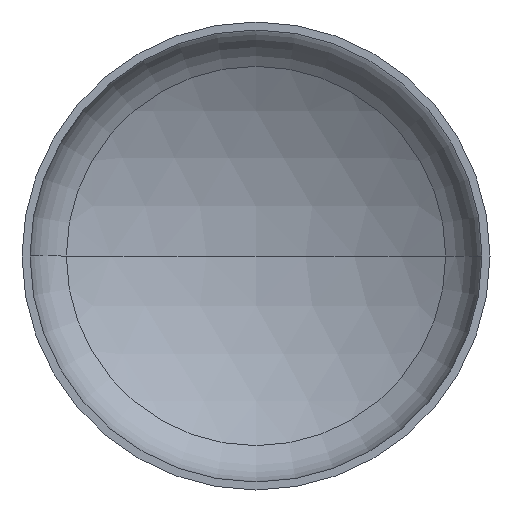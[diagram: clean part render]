
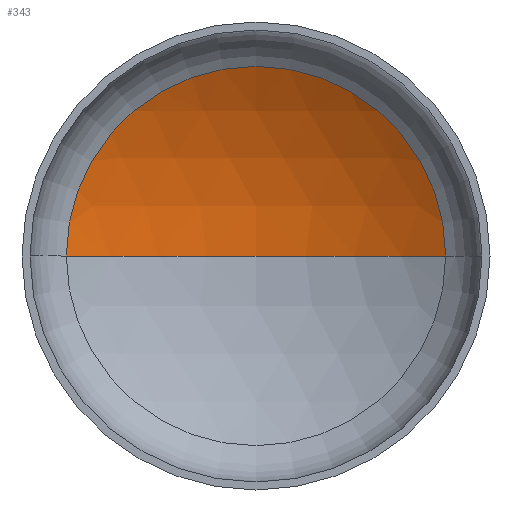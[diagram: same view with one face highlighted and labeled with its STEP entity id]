
A CAD part, front view. The second image highlights one B-rep face of the part: STEP entity #343.
In plain terms, the highlighted spherical face has radius 560 mm.
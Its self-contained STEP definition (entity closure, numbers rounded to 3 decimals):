
#3 = ORIENTED_EDGE ( 'NONE', *, *, #123, .T. ) ;
#7 = DIRECTION ( 'NONE',  ( 0., 0., 1. ) ) ;
#8 = CARTESIAN_POINT ( 'NONE',  ( 0., -347.964, 0. ) ) ;
#18 = EDGE_LOOP ( 'NONE', ( #232, #73, #3 ) ) ;
#35 = DIRECTION ( 'NONE',  ( -1., 0., 0. ) ) ;
#43 = AXIS2_PLACEMENT_3D ( 'NONE', #143, #289, #357 ) ;
#65 = AXIS2_PLACEMENT_3D ( 'NONE', #8, #7, #247 ) ;
#66 = AXIS2_PLACEMENT_3D ( 'NONE', #178, #179, #35 ) ;
#71 = AXIS2_PLACEMENT_3D ( 'NONE', #211, #198, #192 ) ;
#73 = ORIENTED_EDGE ( 'NONE', *, *, #129, .T. ) ;
#123 = EDGE_CURVE ( 'NONE', #182, #135, #201, .T. ) ;
#129 = EDGE_CURVE ( 'NONE', #297, #182, #385, .T. ) ;
#135 = VERTEX_POINT ( 'NONE', #287 ) ;
#138 = EDGE_CURVE ( 'NONE', #297, #135, #189, .T. ) ;
#143 = CARTESIAN_POINT ( 'NONE',  ( 0., -347.964, 0. ) ) ;
#146 = SPHERICAL_SURFACE ( 'NONE', #43, 560. ) ;
#178 = CARTESIAN_POINT ( 'NONE',  ( 0., -347.964, 0. ) ) ;
#179 = DIRECTION ( 'NONE',  ( 0., 0., -1. ) ) ;
#182 = VERTEX_POINT ( 'NONE', #254 ) ;
#189 = CIRCLE ( 'NONE', #65, 560. ) ;
#192 = DIRECTION ( 'NONE',  ( 1., 0., 0. ) ) ;
#198 = DIRECTION ( 'NONE',  ( 0., -1., 0. ) ) ;
#201 = CIRCLE ( 'NONE', #71, 283.733 ) ;
#211 = CARTESIAN_POINT ( 'NONE',  ( 0., 134.836, 0. ) ) ;
#232 = ORIENTED_EDGE ( 'NONE', *, *, #138, .F. ) ;
#240 = FACE_OUTER_BOUND ( 'NONE', #18, .T. ) ;
#247 = DIRECTION ( 'NONE',  ( 1., 0., 0. ) ) ;
#254 = CARTESIAN_POINT ( 'NONE',  ( 283.733, 134.836, 0. ) ) ;
#261 = CARTESIAN_POINT ( 'NONE',  ( 0., 212.036, 0. ) ) ;
#287 = CARTESIAN_POINT ( 'NONE',  ( -283.733, 134.836, 0. ) ) ;
#289 = DIRECTION ( 'NONE',  ( 0., 0., -1. ) ) ;
#297 = VERTEX_POINT ( 'NONE', #261 ) ;
#343 = ADVANCED_FACE ( 'NONE', ( #240 ), #146, .F. ) ;
#357 = DIRECTION ( 'NONE',  ( -1., 0., 0. ) ) ;
#385 = CIRCLE ( 'NONE', #66, 560. ) ;
